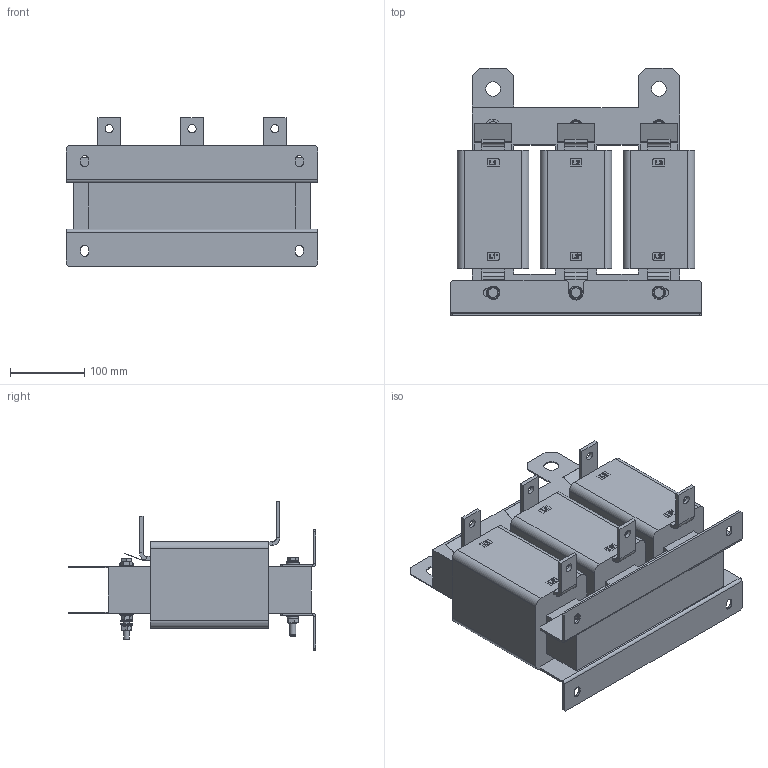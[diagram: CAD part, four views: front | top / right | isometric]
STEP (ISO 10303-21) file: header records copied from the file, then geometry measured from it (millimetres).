
FILE_DESCRIPTION(/* description */ ('raw material description'),/* implementation_level */ '2;1');
FILE_NAME(/* name */ 'P:\Construction\Filter_Marketing\RWK\RWK3044_RWK3062\RWK3044\RWK3044-320-99-E0XXX.stp',/* time_stamp */ '2018-08-27T10:56:27+02:00',/* author */ ('Erika.Jenzer'),/* organization */ ('Schaffner EMV AG'),/* preprocessor_version */ 'ST-DEVELOPER v16.5',/* originating_system */ 'Autodesk Inventor 2017',/* authorisation */ '');
FILE_SCHEMA (('AUTOMOTIVE_DESIGN { 1 0 10303 214 3 1 1 }'));
Length unit declared in the file: millimetre
Products named in the file (1): RWK3044-320-99-E0XXX
Bounding box: 340 x 334.3 x 200.8 mm (x, y, z)
Volume: 7606592.4 mm3; surface area: 522470.2 mm2
Topology: 39 solids, 50 shells, 1062 faces, 2599 edges, 1713 vertices
Faces by surface type: plane 727, cylinder 169, cone 109, bspline 50, torus 7
Full cylindrical faces by diameter (mm): 8 x19, 8.2 x6, 8.4 x14, 9.9 x5, 10.5 x3, 11 x6, 11.4 x6, 13 x1, 16 x12, 18 x5, 20 x4
Entity records: 31128 total; most frequent: CARTESIAN_POINT 6193, ORIENTED_EDGE 4894, DIRECTION 4610, EDGE_CURVE 2440, LINE 1708, VECTOR 1708, VERTEX_POINT 1672, AXIS2_PLACEMENT_3D 1451
